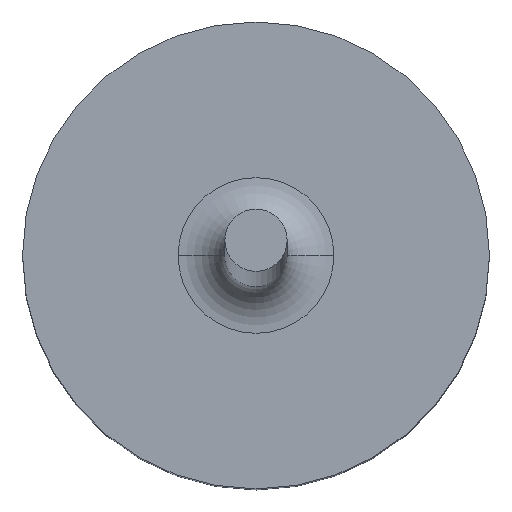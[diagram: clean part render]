
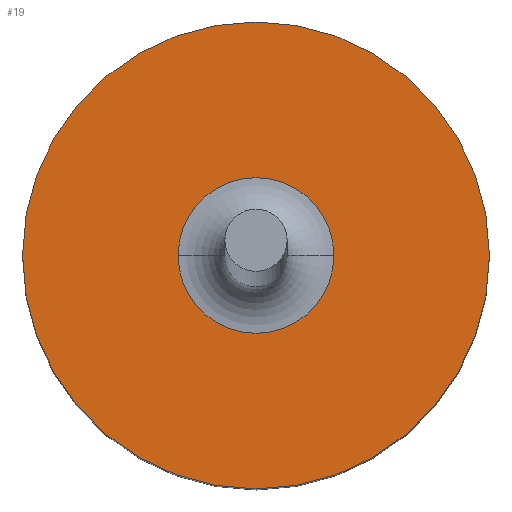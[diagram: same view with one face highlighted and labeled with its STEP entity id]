
A CAD part, top view. The second image highlights one B-rep face of the part: STEP entity #19.
In plain terms, the highlighted planar face has unit normal (0, 0, 1).
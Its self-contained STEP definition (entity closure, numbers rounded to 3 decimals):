
#19 = ADVANCED_FACE ( 'NONE', ( #116, #58 ), #25, .F. ) ;
#21 = CIRCLE ( 'NONE', #245, 0.5 ) ;
#25 = PLANE ( 'NONE',  #149 ) ;
#30 = CARTESIAN_POINT ( 'NONE',  ( 0., 0., 4. ) ) ;
#32 = DIRECTION ( 'NONE',  ( -1., 0., 0. ) ) ;
#37 = CARTESIAN_POINT ( 'NONE',  ( 1.5, 0., 4. ) ) ;
#49 = CARTESIAN_POINT ( 'NONE',  ( 0.5, 0., 4. ) ) ;
#57 = EDGE_CURVE ( 'NONE', #74, #145, #224, .T. ) ;
#58 = FACE_OUTER_BOUND ( 'NONE', #120, .T. ) ;
#60 = EDGE_CURVE ( 'NONE', #191, #180, #138, .T. ) ;
#63 = CARTESIAN_POINT ( 'NONE',  ( 1.5, 0., 4. ) ) ;
#74 = VERTEX_POINT ( 'NONE', #241 ) ;
#77 = CARTESIAN_POINT ( 'NONE',  ( -1.5, 0., 4. ) ) ;
#85 = ORIENTED_EDGE ( 'NONE', *, *, #102, .F. ) ;
#91 = DIRECTION ( 'NONE',  ( -1., 0., 0. ) ) ;
#100 = AXIS2_PLACEMENT_3D ( 'NONE', #263, #166, #194 ) ;
#102 = EDGE_CURVE ( 'NONE', #180, #191, #170, .T. ) ;
#113 = AXIS2_PLACEMENT_3D ( 'NONE', #30, #214, #32 ) ;
#116 = FACE_BOUND ( 'NONE', #243, .T. ) ;
#120 = EDGE_LOOP ( 'NONE', ( #261, #85 ) ) ;
#127 = DIRECTION ( 'NONE',  ( -1., 0., 0. ) ) ;
#138 = CIRCLE ( 'NONE', #100, 1.5 ) ;
#145 = VERTEX_POINT ( 'NONE', #49 ) ;
#149 = AXIS2_PLACEMENT_3D ( 'NONE', #63, #257, #232 ) ;
#166 = DIRECTION ( 'NONE',  ( 0., 0., -1. ) ) ;
#170 = CIRCLE ( 'NONE', #207, 1.5 ) ;
#180 = VERTEX_POINT ( 'NONE', #37 ) ;
#189 = DIRECTION ( 'NONE',  ( 0., 0., -1. ) ) ;
#191 = VERTEX_POINT ( 'NONE', #77 ) ;
#194 = DIRECTION ( 'NONE',  ( -1., 0., 0. ) ) ;
#207 = AXIS2_PLACEMENT_3D ( 'NONE', #260, #189, #127 ) ;
#214 = DIRECTION ( 'NONE',  ( 0., 0., -1. ) ) ;
#223 = DIRECTION ( 'NONE',  ( 0., 0., -1. ) ) ;
#224 = CIRCLE ( 'NONE', #113, 0.5 ) ;
#226 = EDGE_CURVE ( 'NONE', #145, #74, #21, .T. ) ;
#232 = DIRECTION ( 'NONE',  ( -1., 0., 0. ) ) ;
#241 = CARTESIAN_POINT ( 'NONE',  ( -0.5, 0., 4. ) ) ;
#243 = EDGE_LOOP ( 'NONE', ( #249, #272 ) ) ;
#245 = AXIS2_PLACEMENT_3D ( 'NONE', #246, #223, #91 ) ;
#246 = CARTESIAN_POINT ( 'NONE',  ( 0., 0., 4. ) ) ;
#249 = ORIENTED_EDGE ( 'NONE', *, *, #57, .T. ) ;
#257 = DIRECTION ( 'NONE',  ( 0., 0., -1. ) ) ;
#260 = CARTESIAN_POINT ( 'NONE',  ( 0., 0., 4. ) ) ;
#261 = ORIENTED_EDGE ( 'NONE', *, *, #60, .F. ) ;
#263 = CARTESIAN_POINT ( 'NONE',  ( 0., 0., 4. ) ) ;
#272 = ORIENTED_EDGE ( 'NONE', *, *, #226, .T. ) ;
